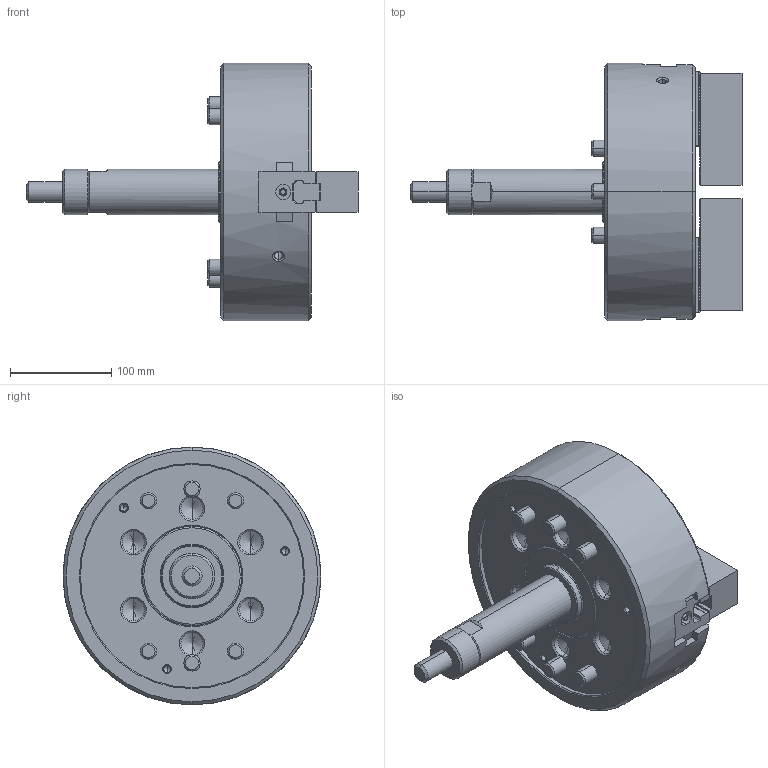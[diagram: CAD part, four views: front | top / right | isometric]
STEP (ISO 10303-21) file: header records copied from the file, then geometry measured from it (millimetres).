
FILE_DESCRIPTION (( 'STEP AP214' ), '1' );
FILE_NAME ('NLT10_OC.STEP', '2019-12-19T06:56:11', ( '' ), ( '' ), 'SwSTEP 2.0', 'SolidWorks 2017', '' );
FILE_SCHEMA (( 'AUTOMOTIVE_DESIGN' ));
Length unit declared in the file: millimetre
Products named in the file (5): 結合; 0030112035; 61P400852_俿僫僢僩; 61P314663_ソフトジョー; NLT10_OC
Assembly tree (9 placements, depth 2):
  NLT10_OC
    61P314663_ソフトジョー  x2
    61P400852_俿僫僢僩  x2
    0030112035  x4
    結合
Bounding box: 327.2 x 254 x 254 mm (x, y, z)
Volume: 4867297.2 mm3; surface area: 323015.2 mm2
Topology: 9 solids, 9 shells, 2263 faces, 6276 edges, 4048 vertices
Faces by surface type: plane 1858, cone 193, cylinder 176, torus 36
Entity records: 53664 total; most frequent: CARTESIAN_POINT 10639, ORIENTED_EDGE 9178, DIRECTION 8364, EDGE_CURVE 4589, VECTOR 3900, LINE 3900, VERTEX_POINT 2973, AXIS2_PLACEMENT_3D 2232
